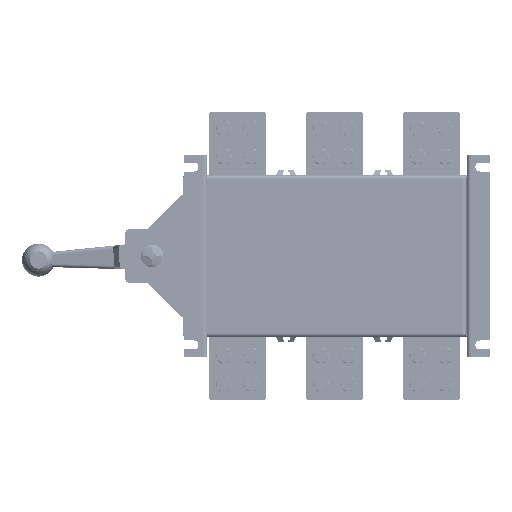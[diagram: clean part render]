
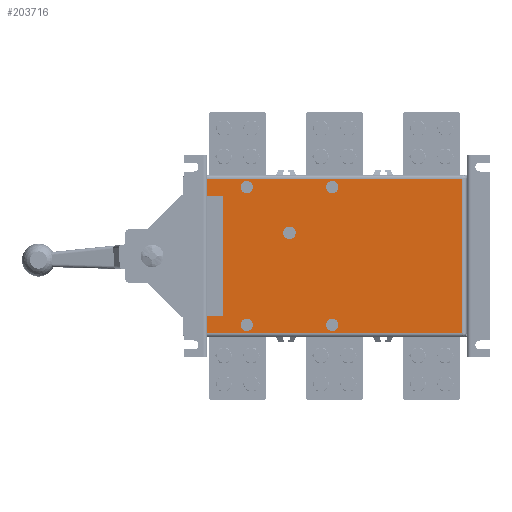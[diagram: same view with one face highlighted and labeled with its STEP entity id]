
A CAD part, front view. The second image highlights one B-rep face of the part: STEP entity #203716.
In plain terms, the highlighted planar face has unit normal (0, -1, 0) as drawn and (0, 1, 0) by its records, which use the part's own axes.
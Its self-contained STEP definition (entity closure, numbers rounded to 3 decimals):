
#201875=DIRECTION('',(-1.,0.,0.));
#201876=VECTOR('',#201875,19.);
#201877=CARTESIAN_POINT('',(-85.5,55.4,74.65));
#201878=LINE('',#201877,#201876);
#202202=DIRECTION('',(1.,0.,0.));
#202203=VECTOR('',#202202,315.);
#202204=CARTESIAN_POINT('',(-104.5,55.4,95.85));
#202205=LINE('',#202204,#202203);
#202216=DIRECTION('',(0.,0.,-1.));
#202217=VECTOR('',#202216,21.2);
#202218=CARTESIAN_POINT('',(-104.5,55.4,95.85));
#202219=LINE('',#202218,#202217);
#202223=DIRECTION('',(0.,0.,-1.));
#202224=VECTOR('',#202223,21.2);
#202225=CARTESIAN_POINT('',(-104.5,55.4,-74.65));
#202226=LINE('',#202225,#202224);
#202230=CARTESIAN_POINT('',(-56.,55.4,85.2));
#202231=DIRECTION('',(0.,1.,0.));
#202232=DIRECTION('',(0.,0.,1.));
#202233=AXIS2_PLACEMENT_3D('',#202230,#202231,#202232);
#202238=CARTESIAN_POINT('',(-56.,55.4,85.2));
#202239=DIRECTION('',(0.,1.,0.));
#202240=DIRECTION('',(0.,0.,-1.));
#202241=AXIS2_PLACEMENT_3D('',#202238,#202239,#202240);
#202246=CARTESIAN_POINT('',(50.,55.4,-85.2));
#202247=DIRECTION('',(0.,1.,0.));
#202248=DIRECTION('',(0.,0.,1.));
#202249=AXIS2_PLACEMENT_3D('',#202246,#202247,#202248);
#202254=CARTESIAN_POINT('',(50.,55.4,-85.2));
#202255=DIRECTION('',(0.,1.,0.));
#202256=DIRECTION('',(0.,0.,-1.));
#202257=AXIS2_PLACEMENT_3D('',#202254,#202255,#202256);
#202262=CARTESIAN_POINT('',(50.,55.4,85.2));
#202263=DIRECTION('',(0.,1.,0.));
#202264=DIRECTION('',(0.,0.,1.));
#202265=AXIS2_PLACEMENT_3D('',#202262,#202263,#202264);
#202270=CARTESIAN_POINT('',(50.,55.4,85.2));
#202271=DIRECTION('',(0.,1.,0.));
#202272=DIRECTION('',(0.,0.,-1.));
#202273=AXIS2_PLACEMENT_3D('',#202270,#202271,#202272);
#202278=CARTESIAN_POINT('',(-3.,55.4,-28.55));
#202279=DIRECTION('',(0.,1.,0.));
#202280=DIRECTION('',(0.,0.,1.));
#202281=AXIS2_PLACEMENT_3D('',#202278,#202279,#202280);
#202286=CARTESIAN_POINT('',(-3.,55.4,-28.55));
#202287=DIRECTION('',(0.,1.,0.));
#202288=DIRECTION('',(0.,0.,-1.));
#202289=AXIS2_PLACEMENT_3D('',#202286,#202287,#202288);
#202294=CARTESIAN_POINT('',(-56.,55.4,-85.2));
#202295=DIRECTION('',(0.,1.,0.));
#202296=DIRECTION('',(0.,0.,1.));
#202297=AXIS2_PLACEMENT_3D('',#202294,#202295,#202296);
#202302=CARTESIAN_POINT('',(-56.,55.4,-85.2));
#202303=DIRECTION('',(0.,1.,0.));
#202304=DIRECTION('',(0.,0.,-1.));
#202305=AXIS2_PLACEMENT_3D('',#202302,#202303,#202304);
#202317=DIRECTION('',(0.,0.,1.));
#202318=VECTOR('',#202317,149.3);
#202319=CARTESIAN_POINT('',(-85.5,55.4,-74.65));
#202320=LINE('',#202319,#202318);
#202352=DIRECTION('',(1.,0.,0.));
#202353=VECTOR('',#202352,19.);
#202354=CARTESIAN_POINT('',(-104.5,55.4,-74.65));
#202355=LINE('',#202354,#202353);
#202478=DIRECTION('',(-1.,0.,0.));
#202479=VECTOR('',#202478,315.);
#202480=CARTESIAN_POINT('',(210.5,55.4,-95.85));
#202481=LINE('',#202480,#202479);
#202524=DIRECTION('',(0.,0.,-1.));
#202525=VECTOR('',#202524,191.7);
#202526=CARTESIAN_POINT('',(210.5,55.4,95.85));
#202527=LINE('',#202526,#202525);
#202907=CARTESIAN_POINT('',(-104.5,55.4,74.65));
#202909=VERTEX_POINT('',#202907);
#202910=CARTESIAN_POINT('',(-104.5,55.4,95.85));
#202911=VERTEX_POINT('',#202910);
#202938=CARTESIAN_POINT('',(-85.5,55.4,74.65));
#202939=VERTEX_POINT('',#202938);
#202966=CARTESIAN_POINT('',(-104.5,55.4,-95.85));
#202967=VERTEX_POINT('',#202966);
#202968=CARTESIAN_POINT('',(-104.5,55.4,-74.65));
#202969=VERTEX_POINT('',#202968);
#202994=CARTESIAN_POINT('',(210.5,55.4,95.85));
#202995=VERTEX_POINT('',#202994);
#202996=CARTESIAN_POINT('',(-85.5,55.4,-74.65));
#202997=VERTEX_POINT('',#202996);
#202998=CARTESIAN_POINT('',(210.5,55.4,-95.85));
#202999=VERTEX_POINT('',#202998);
#203000=CARTESIAN_POINT('',(-56.,55.4,92.8));
#203001=CARTESIAN_POINT('',(-56.,55.4,77.6));
#203002=VERTEX_POINT('',#203000);
#203003=VERTEX_POINT('',#203001);
#203004=CARTESIAN_POINT('',(50.,55.4,-77.6));
#203005=CARTESIAN_POINT('',(50.,55.4,-92.8));
#203006=VERTEX_POINT('',#203004);
#203007=VERTEX_POINT('',#203005);
#203008=CARTESIAN_POINT('',(50.,55.4,92.8));
#203009=CARTESIAN_POINT('',(50.,55.4,77.6));
#203010=VERTEX_POINT('',#203008);
#203011=VERTEX_POINT('',#203009);
#203012=CARTESIAN_POINT('',(-3.,55.4,-20.86));
#203013=CARTESIAN_POINT('',(-3.,55.4,-36.24));
#203014=VERTEX_POINT('',#203012);
#203015=VERTEX_POINT('',#203013);
#203016=CARTESIAN_POINT('',(-56.,55.4,-77.6));
#203017=CARTESIAN_POINT('',(-56.,55.4,-92.8));
#203018=VERTEX_POINT('',#203016);
#203019=VERTEX_POINT('',#203017);
#203667=CARTESIAN_POINT('',(0.,55.4,0.));
#203668=DIRECTION('',(0.,-1.,0.));
#203669=DIRECTION('',(0.,0.,-1.));
#203670=AXIS2_PLACEMENT_3D('',#203667,#203668,#203669);
#203671=PLANE('',#203670);
#203672=ORIENTED_EDGE('',*,*,#203319,.T.);
#203673=ORIENTED_EDGE('',*,*,#203363,.F.);
#203675=ORIENTED_EDGE('',*,*,#203674,.F.);
#203677=ORIENTED_EDGE('',*,*,#203676,.F.);
#203678=ORIENTED_EDGE('',*,*,#203544,.T.);
#203680=ORIENTED_EDGE('',*,*,#203679,.F.);
#203682=ORIENTED_EDGE('',*,*,#203681,.F.);
#203683=ORIENTED_EDGE('',*,*,#203660,.F.);
#203684=EDGE_LOOP('',(#203672,#203673,#203675,#203677,#203678,#203680,#203682,
#203683));
#203685=FACE_OUTER_BOUND('',#203684,.F.);
#203687=ORIENTED_EDGE('',*,*,#203686,.T.);
#203689=ORIENTED_EDGE('',*,*,#203688,.T.);
#203690=EDGE_LOOP('',(#203687,#203689));
#203691=FACE_BOUND('',#203690,.F.);
#203693=ORIENTED_EDGE('',*,*,#203692,.T.);
#203695=ORIENTED_EDGE('',*,*,#203694,.T.);
#203696=EDGE_LOOP('',(#203693,#203695));
#203697=FACE_BOUND('',#203696,.F.);
#203699=ORIENTED_EDGE('',*,*,#203698,.T.);
#203701=ORIENTED_EDGE('',*,*,#203700,.T.);
#203702=EDGE_LOOP('',(#203699,#203701));
#203703=FACE_BOUND('',#203702,.F.);
#203705=ORIENTED_EDGE('',*,*,#203704,.T.);
#203707=ORIENTED_EDGE('',*,*,#203706,.T.);
#203708=EDGE_LOOP('',(#203705,#203707));
#203709=FACE_BOUND('',#203708,.F.);
#203711=ORIENTED_EDGE('',*,*,#203710,.T.);
#203713=ORIENTED_EDGE('',*,*,#203712,.T.);
#203714=EDGE_LOOP('',(#203711,#203713));
#203715=FACE_BOUND('',#203714,.F.);
#202234=CIRCLE('',#202233,7.6);
#202242=CIRCLE('',#202241,7.6);
#202250=CIRCLE('',#202249,7.6);
#202258=CIRCLE('',#202257,7.6);
#202266=CIRCLE('',#202265,7.6);
#202274=CIRCLE('',#202273,7.6);
#202282=CIRCLE('',#202281,7.69);
#202290=CIRCLE('',#202289,7.69);
#202298=CIRCLE('',#202297,7.6);
#202306=CIRCLE('',#202305,7.6);
#203319=EDGE_CURVE('',#202911,#202909,#202219,.T.);
#203363=EDGE_CURVE('',#202939,#202909,#201878,.T.);
#203544=EDGE_CURVE('',#202969,#202967,#202226,.T.);
#203660=EDGE_CURVE('',#202911,#202995,#202205,.T.);
#203674=EDGE_CURVE('',#202997,#202939,#202320,.T.);
#203676=EDGE_CURVE('',#202969,#202997,#202355,.T.);
#203679=EDGE_CURVE('',#202999,#202967,#202481,.T.);
#203681=EDGE_CURVE('',#202995,#202999,#202527,.T.);
#203686=EDGE_CURVE('',#203002,#203003,#202234,.T.);
#203688=EDGE_CURVE('',#203003,#203002,#202242,.T.);
#203692=EDGE_CURVE('',#203006,#203007,#202250,.T.);
#203694=EDGE_CURVE('',#203007,#203006,#202258,.T.);
#203698=EDGE_CURVE('',#203010,#203011,#202266,.T.);
#203700=EDGE_CURVE('',#203011,#203010,#202274,.T.);
#203704=EDGE_CURVE('',#203014,#203015,#202282,.T.);
#203706=EDGE_CURVE('',#203015,#203014,#202290,.T.);
#203710=EDGE_CURVE('',#203018,#203019,#202298,.T.);
#203712=EDGE_CURVE('',#203019,#203018,#202306,.T.);
#203716=ADVANCED_FACE('',(#203685,#203691,#203697,#203703,#203709,#203715),
#203671,.F.);
